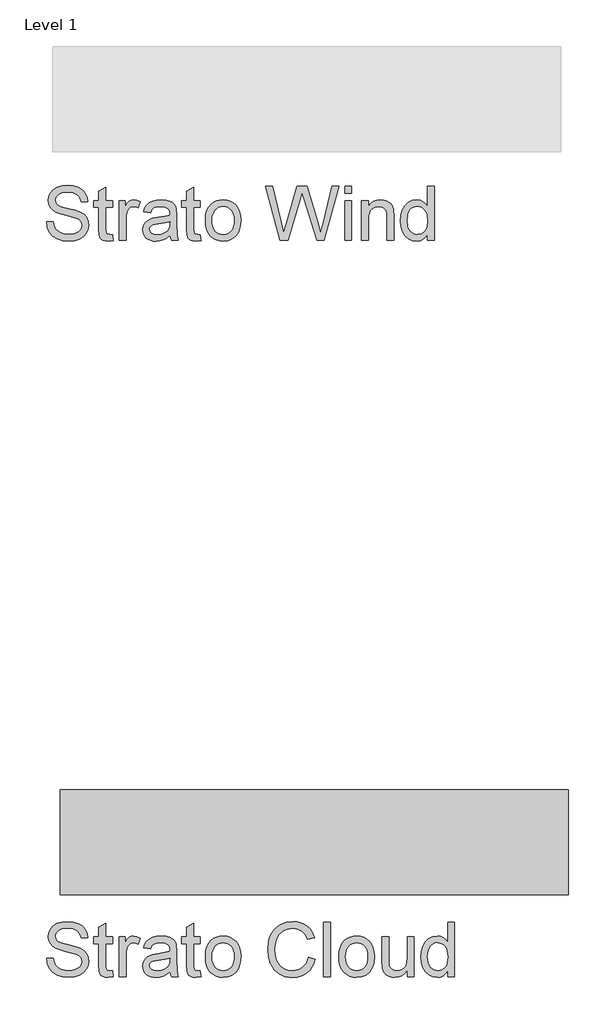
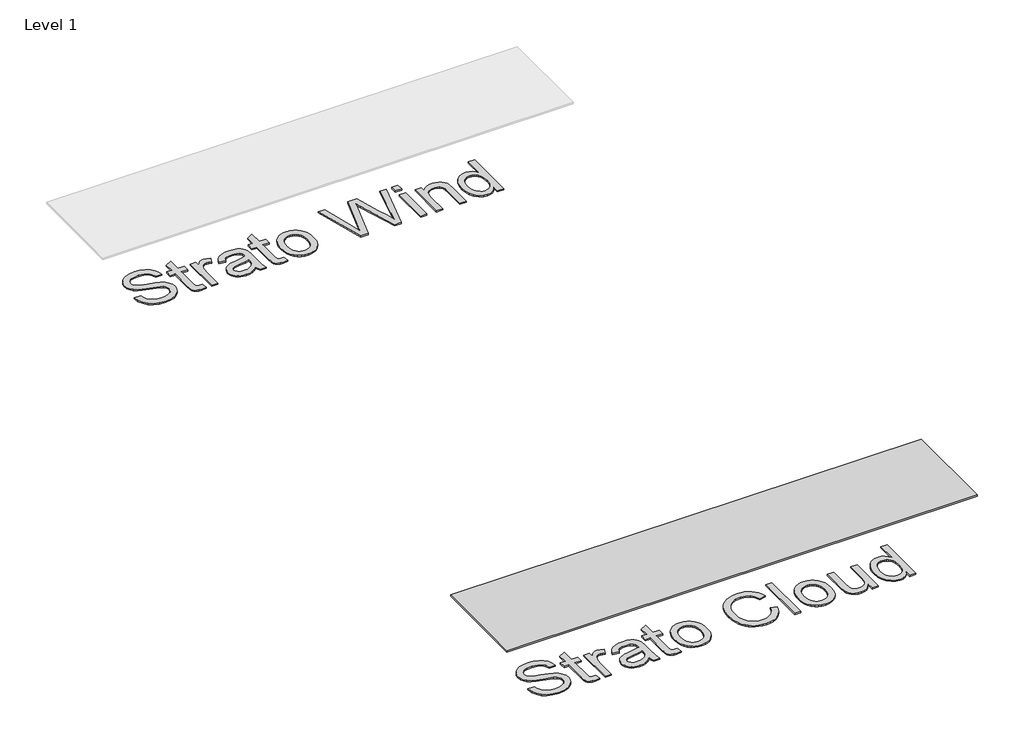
# One storey, part 1 of 2: 3 proxies.
"""IFC4 building model written with IfcOpenShell, lengths in millimetres."""

from ifc_helpers import new_model, si_unit, origin, origin_with_axes, place, context, project, spatial, polyline, outline, extrude, transform, mapped, element, save
from components import generic_models_7f56e2ab

model = new_model("IFC4")

# Units and contexts
model_context = context("Model", 3, world=origin())
ifc_project = project(units=[si_unit("LENGTHUNIT", "METRE", prefix="MILLI")], contexts=[model_context])

# Site, building, storey
site = spatial("IfcSite", under=ifc_project)
building = spatial("IfcBuilding", under=site)
storey = spatial("IfcBuildingStorey", under=building, Name="Level 1", Elevation=0.0)

# Proxies
placement = place(None, origin())
generic_models_shape = generic_models_7f56e2ab(model_context)
element("IfcBuildingElementProxy", 1, Name="Indoor-Material_HI-MACS_Strato : Natural Acrylic Stone - HI-MACS -  Strato - Cloud", ObjectType="Indoor-Material_HI-MACS_Strato : Natural Acrylic Stone - HI-MACS -  Strato - Cloud", at=placement, inside=storey, context=model_context, shape_type="MappedRepresentation", body=[
    mapped(generic_models_shape, transform((-39135.0030901, 16973.1452732, 0.0), x_axis=(1.0000000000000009, 0.0, 0.0), y_axis=(0.0, 1.0000000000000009, 0.0), z_axis=(0.0, 0.0, 1.0))),
])
element("IfcBuildingElementProxy", 2, Name="600mm Arial", ObjectType="600mm Arial", at=placement, inside=storey, context=model_context, shape_type="SweptSolid", body=[
    extrude(outline(polyline([(-41073.5025973, 21466.0222044), (-41024.5329003, 21466.0222044), (-41018.9138189, 21438.8473701), (-41008.7516503, 21417.0046855), (-40992.8986674, 21399.6692214), (-40970.2071427, 21386.0160491), (-40942.4704003, 21377.1570292), (-40911.481764, 21374.2040226), (-40884.1993302, 21376.4396997), (-40860.3122564, 21383.1467309), (-40840.9563141, 21393.7632082), (-40827.2672753, 21407.7272233), (-40819.125585, 21423.7595387), (-40816.4116882, 21440.5809165), (-40818.4441219, 21456.9718966), (-40824.5414231, 21471.1391552), (-40836.9273132, 21483.226158), (-40857.825514, 21493.3763711), (-40929.1280708, 21512.0747612), (-40975.9338236, 21524.4486959), (-41005.8823321, 21536.2248559), (-41030.2595812, 21552.6995245), (-41047.5352677, 21572.6651968), (-41057.8289467, 21595.6914752), (-41061.2601731, 21621.347962), (-41057.0159732, 21650.0291883), (-41044.2833738, 21676.7736249), (-41023.3971285, 21699.4412385), (-40994.6919912, 21715.8919961), (-40960.2362621, 21725.8987432), (-40922.0982412, 21729.2343256), (-40880.7800594, 21725.7433218), (-40844.6266503, 21715.2703105), (-40814.9292071, 21698.0304904), (-40792.9789231, 21674.2390605), (-40779.0866409, 21645.3785017), (-40773.5632034, 21612.9312953), (-40822.5329003, 21612.9312953), (-40831.5234306, 21642.1505188), (-40850.2696427, 21663.2400074), (-40879.5605992, 21676.0084733), (-40920.1853624, 21680.2646286), (-40961.7665651, 21676.0562953), (-40977.6613923, 21670.7958786), (-40990.29237, 21663.4312953), (-41006.7909496, 21644.8524601), (-41012.2904761, 21622.7826211), (-41008.3929856, 21603.964676), (-40996.700514, 21588.8290226), (-40969.0594155, 21575.2954052), (-40916.7421806, 21561.4748559), (-40862.7511768, 21548.3477252), (-40830.0887715, 21536.8943635), (-40802.1726967, 21519.1285017), (-40782.6971996, 21497.2021286), (-40771.2557933, 21471.354354), (-40767.4419912, 21441.8242877), (-40771.829657, 21411.6366694), (-40784.9926541, 21383.2423749), (-40806.3929856, 21358.8053483), (-40835.4926541, 21340.4895339), (-40870.4863804, 21329.0481277), (-40909.5688852, 21325.2343256), (-40957.5462763, 21329.347015), (-40997.0352677, 21341.6850832), (-41028.4901683, 21362.2963521), (-41052.3652867, 21391.2286438), (-41067.692228, 21426.4734355), (-41073.5025973, 21466.0222044)])), origin_with_axes(), (0.0, 0.0, 1.0), 10.0),
    extrude(outline(polyline([(-40596.0480518, 21372.1954999), (-40589.9268397, 21329.9208786), (-40626.5584685, 21325.2343256), (-40650.0629666, 21327.2667593), (-40667.5897185, 21333.3640605), (-40679.9756087, 21342.7610775), (-40688.0575215, 21354.6926589), (-40692.5049647, 21375.184373), (-40693.9874458, 21410.2617877), (-40693.9874458, 21570.0828105), (-40730.7147185, 21570.0828105), (-40730.7147185, 21619.0525074), (-40693.9874458, 21619.0525074), (-40693.9874458, 21688.9682271), (-40645.0177488, 21717.7570529), (-40645.0177488, 21619.0525074), (-40596.0480518, 21619.0525074), (-40596.0480518, 21570.0828105), (-40645.0177488, 21570.0828105), (-40645.0177488, 21411.6964468), (-40642.4353624, 21386.4464468), (-40634.0665177, 21377.5037385), (-40617.3766503, 21374.2040226), (-40596.0480518, 21372.1954999)])), origin_with_axes(), (0.0, 0.0, 1.0), 10.0),
    extrude(outline(polyline([(-40547.0783549, 21331.3555377), (-40547.0783549, 21619.0525074), (-40504.22987, 21619.0525074), (-40504.22987, 21576.4909544), (-40488.4007981, 21601.1670908), (-40473.8150973, 21615.7049695), (-40459.1815746, 21622.806532), (-40443.2090367, 21625.1737195), (-40418.8198321, 21621.3957839), (-40394.0480518, 21610.0619771), (-40410.4031655, 21566.1614089), (-40427.6190746, 21573.6933692), (-40444.8349837, 21576.2040226), (-40459.4565509, 21573.7890131), (-40472.5239041, 21566.5439847), (-40483.0806039, 21555.01889), (-40490.1702109, 21539.7636817), (-40496.1240462, 21512.409515), (-40498.1086579, 21482.5686059), (-40498.1086579, 21331.3555377), (-40547.0783549, 21331.3555377)])), origin_with_axes(), (0.0, 0.0, 1.0), 10.0),
    extrude(outline(polyline([(-40179.8056276, 21368.0828105), (-40203.2025263, 21348.0214942), (-40227.2928435, 21334.8943635), (-40252.626532, 21327.6493351), (-40279.7535443, 21325.2343256), (-40301.5573736, 21326.6869179), (-40320.6771948, 21331.0446949), (-40337.113008, 21338.3076566), (-40350.8648132, 21348.4758029), (-40361.7233892, 21360.9035373), (-40369.4795149, 21374.9452631), (-40374.1331903, 21390.6009804), (-40375.6844155, 21407.8706892), (-40373.341139, 21428.1711154), (-40366.3113094, 21446.6064847), (-40355.4676778, 21462.3877347), (-40341.682995, 21474.7258029), (-40307.3946427, 21490.7939847), (-40265.0243776, 21498.158568), (-40214.9547753, 21505.9057271), (-40180.0925594, 21514.9919014), (-40179.8056276, 21525.8953105), (-40183.1770765, 21547.7499506), (-40193.2914231, 21562.0487195), (-40215.9112147, 21572.6651968), (-40247.4258927, 21576.2040226), (-40276.5972943, 21573.8487906), (-40296.9694534, 21566.7830945), (-40310.8617356, 21553.7157413), (-40320.5935064, 21533.3555377), (-40369.5632034, 21539.4767499), (-40361.0628482, 21566.2570529), (-40348.3780708, 21587.2987195), (-40330.3252772, 21603.3908124), (-40305.7208738, 21615.3223938), (-40275.6288994, 21622.7108881), (-40241.1133927, 21625.1737195), (-40208.0086342, 21622.9978199), (-40181.7663284, 21616.4701211), (-40161.9799884, 21606.6546618), (-40148.2431276, 21594.6154809), (-40139.1330424, 21579.7308928), (-40133.2270291, 21561.379212), (-40130.8359306, 21518.5307271), (-40130.8359306, 21457.6055377), (-40128.3491882, 21372.5302536), (-40118.5935064, 21331.3555377), (-40167.5632034, 21331.3555377), (-40175.4060064, 21348.3801589), (-40179.8056276, 21368.0828105)]), holes=[polyline([(-40179.8056276, 21466.0222044), (-40212.7071427, 21457.8685586), (-40258.8075215, 21451.0061059), (-40300.9386768, 21443.0676589), (-40311.9018634, 21437.6398654), (-40320.0196427, 21430.1557271), (-40325.0409496, 21421.1891078), (-40326.7147185, 21411.3138711), (-40323.0682933, 21396.7520813), (-40312.1290177, 21384.8204999), (-40294.1360016, 21376.8581419), (-40269.3283549, 21374.2040226), (-40243.0262715, 21377.1331182), (-40219.7847943, 21385.9204052), (-40200.9429382, 21398.8682035), (-40187.8397185, 21414.2788332), (-40182.0293492, 21430.1557271), (-40180.0925594, 21452.1538332), (-40179.8056276, 21466.0222044)])]), origin_with_axes(), (0.0, 0.0, 1.0), 10.0),
    extrude(outline(polyline([(-39959.4419912, 21372.1954999), (-39953.3207791, 21329.9208786), (-39989.9524079, 21325.2343256), (-40013.456906, 21327.2667593), (-40030.9836579, 21333.3640605), (-40043.3695481, 21342.7610775), (-40051.4514609, 21354.6926589), (-40055.8989041, 21375.184373), (-40057.3813852, 21410.2617877), (-40057.3813852, 21570.0828105), (-40094.1086579, 21570.0828105), (-40094.1086579, 21619.0525074), (-40057.3813852, 21619.0525074), (-40057.3813852, 21688.9682271), (-40008.4116882, 21717.7570529), (-40008.4116882, 21619.0525074), (-39959.4419912, 21619.0525074), (-39959.4419912, 21570.0828105), (-40008.4116882, 21570.0828105), (-40008.4116882, 21411.6964468), (-40005.8293018, 21386.4464468), (-39997.4604571, 21377.5037385), (-39980.7705897, 21374.2040226), (-39959.4419912, 21372.1954999)])), origin_with_axes(), (0.0, 0.0, 1.0), 10.0),
    extrude(outline(polyline([(-39922.7147185, 21475.2040226), (-39920.0665769, 21512.4633147), (-39912.1221522, 21544.5697896), (-39898.8814444, 21571.5234473), (-39880.3444534, 21593.3242877), (-39861.6819297, 21607.2584142), (-39841.0826162, 21617.2113616), (-39818.546513, 21623.1831301), (-39794.07362, 21625.1737195), (-39767.057196, 21622.7497435), (-39742.6291361, 21615.4778152), (-39720.7894403, 21603.3579347), (-39701.5381087, 21586.3901021), (-39685.8256027, 21565.148181), (-39674.6023842, 21540.2060349), (-39667.8684531, 21511.5636639), (-39665.6238094, 21479.221068), (-39669.5930329, 21429.7492404), (-39681.5007034, 21392.0894392), (-39701.0001115, 21363.8864326), (-39727.7445481, 21342.7849885), (-39759.5102914, 21329.6219913), (-39794.07362, 21325.2343256), (-39821.4845753, 21327.6493351), (-39846.1397895, 21334.8943635), (-39868.0392628, 21346.9694108), (-39887.182995, 21363.8744771), (-39902.728124, 21385.3226305), (-39913.8317876, 21411.0269392), (-39920.4939858, 21440.9874033), (-39922.7147185, 21475.2040226)]), holes=[polyline([(-39873.7450215, 21475.2996665), (-39872.3282957, 21451.5470919), (-39868.0781181, 21430.9806561), (-39860.9944889, 21413.600359), (-39851.0774079, 21399.4062006), (-39839.014316, 21388.3802477), (-39825.4926541, 21380.5045671), (-39810.5124221, 21375.7791587), (-39794.07362, 21374.2040226), (-39777.7185064, 21375.7881253), (-39762.7980518, 21380.5404336), (-39749.3122564, 21388.4609473), (-39737.26112, 21399.5496665), (-39727.3440391, 21413.8843019), (-39720.2604098, 21431.5425642), (-39716.0102322, 21452.5244535), (-39714.5935064, 21476.8299695), (-39716.0191989, 21499.8293481), (-39720.2962763, 21519.8577868), (-39727.4247386, 21536.9152856), (-39737.4045859, 21551.0018445), (-39749.5005554, 21562.0277974), (-39762.9773842, 21569.9034781), (-39777.8350724, 21574.6288865), (-39794.07362, 21576.2040226), (-39810.5124221, 21574.6348642), (-39825.4926541, 21569.9273891), (-39839.014316, 21562.0815972), (-39851.0774079, 21551.0974885), (-39860.9944889, 21536.9451743), (-39868.0781181, 21519.594766), (-39872.3282957, 21499.0462633), (-39873.7450215, 21475.2996665)])]), origin_with_axes(), (0.0, 0.0, 1.0), 10.0),
    extrude(outline(polyline([(-39381.2743776, 21331.3555377), (-39488.1086579, 21723.1131135), (-39437.6086579, 21723.1131135), (-39375.6313852, 21465.6396286), (-39356.5025973, 21386.159515), (-39336.0347943, 21456.4578105), (-39258.3719155, 21723.1131135), (-39185.5868776, 21723.1131135), (-39129.1569534, 21529.816712), (-39104.9829477, 21458.0837574), (-39087.169264, 21386.159515), (-39068.6143397, 21463.3441741), (-39006.0632034, 21723.1131135), (-38955.5632034, 21723.1131135), (-39062.4931276, 21331.3555377), (-39114.8103624, 21331.3555377), (-39208.7327109, 21633.5903862), (-39221.8359306, 21675.7693635), (-39236.5650973, 21624.9824317), (-39322.1664231, 21331.3555377), (-39381.2743776, 21331.3555377)])), origin_with_axes(), (0.0, 0.0, 1.0), 10.0),
    extrude(outline(polyline([(-38912.7147185, 21331.3555377), (-38912.7147185, 21619.0525074), (-38863.7450215, 21619.0525074), (-38863.7450215, 21331.3555377), (-38912.7147185, 21331.3555377)])), origin_with_axes(), (0.0, 0.0, 1.0), 10.0),
    extrude(outline(polyline([(-38912.7147185, 21674.1434165), (-38912.7147185, 21723.1131135), (-38863.7450215, 21723.1131135), (-38863.7450215, 21674.1434165), (-38912.7147185, 21674.1434165)])), origin_with_axes(), (0.0, 0.0, 1.0), 10.0),
    extrude(outline(polyline([(-38790.2904761, 21331.3555377), (-38790.2904761, 21619.0525074), (-38741.3207791, 21619.0525074), (-38741.3207791, 21578.8820529), (-38724.3081134, 21599.134657), (-38703.8761768, 21613.6008029), (-38680.0249695, 21622.2804904), (-38652.7544912, 21625.1737195), (-38628.616352, 21622.8423985), (-38606.5106465, 21615.8484355), (-38588.0752772, 21605.0645813), (-38574.9481465, 21591.363587), (-38566.0413047, 21574.781319), (-38560.2668018, 21555.3536438), (-38557.6844155, 21508.0098938), (-38557.6844155, 21331.3555377), (-38606.6541124, 21331.3555377), (-38606.6541124, 21501.410462), (-38608.0648606, 21526.7321949), (-38612.2971049, 21544.7371665), (-38620.1040414, 21557.6371428), (-38632.2388662, 21567.64389), (-38647.7929619, 21574.0639894), (-38665.8577109, 21576.2040226), (-38694.5389373, 21571.3979146), (-38718.9879193, 21556.9795908), (-38728.7585454, 21545.2094085), (-38735.7375641, 21529.1232934), (-38739.9249754, 21508.7212456), (-38741.3207791, 21484.003265), (-38741.3207791, 21331.3555377), (-38790.2904761, 21331.3555377)])), origin_with_axes(), (0.0, 0.0, 1.0), 10.0),
    extrude(outline(polyline([(-38312.8359306, 21331.3555377), (-38312.8359306, 21377.5515605), (-38327.4873866, 21354.6627702), (-38345.2353151, 21338.3136343), (-38366.0797161, 21328.5041528), (-38390.0205897, 21325.2343256), (-38421.6787337, 21329.9687006), (-38450.6588473, 21344.1718256), (-38475.1915177, 21366.8513947), (-38493.5073321, 21397.0151021), (-38504.9128719, 21433.4434875), (-38508.7147185, 21474.9170908), (-38505.2117592, 21515.8766078), (-38494.7028814, 21552.8669014), (-38477.2000405, 21583.7838048), (-38452.715192, 21606.5231514), (-38423.1014373, 21620.5110775), (-38390.2118776, 21625.1737195), (-38366.2530708, 21621.8381372), (-38345.0679382, 21611.83139), (-38327.1107886, 21596.4924932), (-38312.8359306, 21577.160462), (-38312.8359306, 21723.1131135), (-38263.8662337, 21723.1131135), (-38263.8662337, 21331.3555377), (-38312.8359306, 21331.3555377)]), holes=[polyline([(-38459.7450215, 21475.1083786), (-38454.221584, 21430.8132792), (-38447.3172872, 21413.4628708), (-38437.6512715, 21399.3105567), (-38413.5729098, 21380.4806561), (-38400.0452701, 21375.773181), (-38385.5253246, 21374.2040226), (-38357.4896948, 21380.1937243), (-38334.0210632, 21398.1628294), (-38324.7525677, 21411.7233467), (-38318.1322138, 21428.4460917), (-38312.8359306, 21471.378265), (-38318.2278577, 21518.3155283), (-38324.9677666, 21536.3862551), (-38334.403639, 21550.8583786), (-38345.8121676, 21561.9470979), (-38358.4700452, 21569.8676116), (-38372.3772718, 21574.6199198), (-38387.5338473, 21576.2040226), (-38402.3407247, 21574.6826862), (-38415.8683643, 21570.1186769), (-38428.1167663, 21562.5119949), (-38439.0859306, 21551.86264), (-38448.1242829, 21537.9374802), (-38454.5802488, 21520.5033834), (-38459.7450215, 21475.1083786)])]), origin_with_axes(), (0.0, 0.0, 1.0), 10.0),
])
element("IfcBuildingElementProxy", 3, Name="600mm Arial", ObjectType="600mm Arial", at=placement, inside=storey, context=model_context, shape_type="SweptSolid", body=[
    extrude(outline(polyline([(-41073.5025973, 16136.9170721), (-41024.5329003, 16136.9170721), (-41018.9138189, 16109.7422378), (-41008.7516503, 16087.8995532), (-40992.8986674, 16070.5640892), (-40970.2071427, 16056.9109168), (-40942.4704003, 16048.0518969), (-40911.481764, 16045.0988903), (-40884.1993302, 16047.3345674), (-40860.3122564, 16054.0415986), (-40840.9563141, 16064.6580759), (-40827.2672753, 16078.6220911), (-40819.125585, 16094.6544064), (-40816.4116882, 16111.4757842), (-40818.4441219, 16127.8667644), (-40824.5414231, 16142.0340229), (-40836.9273132, 16154.1210257), (-40857.825514, 16164.2712388), (-40929.1280708, 16182.9696289), (-40975.9338236, 16195.3435636), (-41005.8823321, 16207.1197236), (-41030.2595812, 16223.5943922), (-41047.5352677, 16243.5600645), (-41057.8289467, 16266.586343), (-41061.2601731, 16292.2428297), (-41057.0159732, 16320.924056), (-41044.2833738, 16347.6684926), (-41023.3971285, 16370.3361062), (-40994.6919912, 16386.7868638), (-40960.2362621, 16396.7936109), (-40922.0982412, 16400.1291933), (-40880.7800594, 16396.6381895), (-40844.6266503, 16386.1651782), (-40814.9292071, 16368.9253581), (-40792.9789231, 16345.1339282), (-40779.0866409, 16316.2733695), (-40773.5632034, 16283.826163), (-40822.5329003, 16283.826163), (-40831.5234306, 16313.0453865), (-40850.2696427, 16334.1348751), (-40879.5605992, 16346.9033411), (-40920.1853624, 16351.1594964), (-40961.7665651, 16346.951163), (-40977.6613923, 16341.6907464), (-40990.29237, 16334.326163), (-41006.7909496, 16315.7473278), (-41012.2904761, 16293.6774888), (-41008.3929856, 16274.8595437), (-40996.700514, 16259.7238903), (-40969.0594155, 16246.1902729), (-40916.7421806, 16232.3697236), (-40862.7511768, 16219.242593), (-40830.0887715, 16207.7892312), (-40802.1726967, 16190.0233695), (-40782.6971996, 16168.0969964), (-40771.2557933, 16142.2492217), (-40767.4419912, 16112.7191555), (-40771.829657, 16082.5315371), (-40784.9926541, 16054.1372426), (-40806.3929856, 16029.7002161), (-40835.4926541, 16011.3844017), (-40870.4863804, 15999.9429954), (-40909.5688852, 15996.1291933), (-40957.5462763, 16000.2418827), (-40997.0352677, 16012.5799509), (-41028.4901683, 16033.1912198), (-41052.3652867, 16062.1235115), (-41067.692228, 16097.3683032), (-41073.5025973, 16136.9170721)])), origin_with_axes(), (0.0, 0.0, 1.0), 10.0),
    extrude(outline(polyline([(-40596.0480518, 16043.0903676), (-40589.9268397, 16000.8157464), (-40626.5584685, 15996.1291933), (-40650.0629666, 15998.161627), (-40667.5897185, 16004.2589282), (-40679.9756087, 16013.6559452), (-40688.0575215, 16025.5875267), (-40692.5049647, 16046.0792407), (-40693.9874458, 16081.1566555), (-40693.9874458, 16240.9776782), (-40730.7147185, 16240.9776782), (-40730.7147185, 16289.9473751), (-40693.9874458, 16289.9473751), (-40693.9874458, 16359.8630948), (-40645.0177488, 16388.6519206), (-40645.0177488, 16289.9473751), (-40596.0480518, 16289.9473751), (-40596.0480518, 16240.9776782), (-40645.0177488, 16240.9776782), (-40645.0177488, 16082.5913145), (-40642.4353624, 16057.3413145), (-40634.0665177, 16048.3986062), (-40617.3766503, 16045.0988903), (-40596.0480518, 16043.0903676)])), origin_with_axes(), (0.0, 0.0, 1.0), 10.0),
    extrude(outline(polyline([(-40547.0783549, 16002.2504055), (-40547.0783549, 16289.9473751), (-40504.22987, 16289.9473751), (-40504.22987, 16247.3858221), (-40488.4007981, 16272.0619585), (-40473.8150973, 16286.5998373), (-40459.1815746, 16293.7013998), (-40443.2090367, 16296.0685873), (-40418.8198321, 16292.2906517), (-40394.0480518, 16280.9568448), (-40410.4031655, 16237.0562767), (-40427.6190746, 16244.5882369), (-40444.8349837, 16247.0988903), (-40459.4565509, 16244.6838808), (-40472.5239041, 16237.4388524), (-40483.0806039, 16225.9137577), (-40490.1702109, 16210.6585494), (-40496.1240462, 16183.3043827), (-40498.1086579, 16153.4634736), (-40498.1086579, 16002.2504055), (-40547.0783549, 16002.2504055)])), origin_with_axes(), (0.0, 0.0, 1.0), 10.0),
    extrude(outline(polyline([(-40179.8056276, 16038.9776782), (-40203.2025263, 16018.9163619), (-40227.2928435, 16005.7892312), (-40252.626532, 15998.5442028), (-40279.7535443, 15996.1291933), (-40301.5573736, 15997.5817857), (-40320.6771948, 16001.9395626), (-40337.113008, 16009.2025243), (-40350.8648132, 16019.3706706), (-40361.7233892, 16031.798405), (-40369.4795149, 16045.8401308), (-40374.1331903, 16061.4958482), (-40375.6844155, 16078.765557), (-40373.341139, 16099.0659831), (-40366.3113094, 16117.5013524), (-40355.4676778, 16133.2826024), (-40341.682995, 16145.6206706), (-40307.3946427, 16161.6888524), (-40265.0243776, 16169.0534358), (-40214.9547753, 16176.8005948), (-40180.0925594, 16185.8867691), (-40179.8056276, 16196.7901782), (-40183.1770765, 16218.6448183), (-40193.2914231, 16232.9435873), (-40215.9112147, 16243.5600645), (-40247.4258927, 16247.0988903), (-40276.5972943, 16244.7436583), (-40296.9694534, 16237.6779623), (-40310.8617356, 16224.6106091), (-40320.5935064, 16204.2504055), (-40369.5632034, 16210.3716176), (-40361.0628482, 16237.1519206), (-40348.3780708, 16258.1935873), (-40330.3252772, 16274.2856801), (-40305.7208738, 16286.2172615), (-40275.6288994, 16293.6057558), (-40241.1133927, 16296.0685873), (-40208.0086342, 16293.8926876), (-40181.7663284, 16287.3649888), (-40161.9799884, 16277.5495295), (-40148.2431276, 16265.5103486), (-40139.1330424, 16250.6257606), (-40133.2270291, 16232.2740797), (-40130.8359306, 16189.4255948), (-40130.8359306, 16128.5004055), (-40128.3491882, 16043.4251214), (-40118.5935064, 16002.2504055), (-40167.5632034, 16002.2504055), (-40175.4060064, 16019.2750267), (-40179.8056276, 16038.9776782)]), holes=[polyline([(-40179.8056276, 16136.9170721), (-40212.7071427, 16128.7634263), (-40258.8075215, 16121.9009736), (-40300.9386768, 16113.9625267), (-40311.9018634, 16108.5347331), (-40320.0196427, 16101.0505948), (-40325.0409496, 16092.0839755), (-40326.7147185, 16082.2087388), (-40323.0682933, 16067.646949), (-40312.1290177, 16055.7153676), (-40294.1360016, 16047.7530096), (-40269.3283549, 16045.0988903), (-40243.0262715, 16048.0279859), (-40219.7847943, 16056.8152729), (-40200.9429382, 16069.7630712), (-40187.8397185, 16085.1737009), (-40182.0293492, 16101.0505948), (-40180.0925594, 16123.0487009), (-40179.8056276, 16136.9170721)])]), origin_with_axes(), (0.0, 0.0, 1.0), 10.0),
    extrude(outline(polyline([(-39959.4419912, 16043.0903676), (-39953.3207791, 16000.8157464), (-39989.9524079, 15996.1291933), (-40013.456906, 15998.161627), (-40030.9836579, 16004.2589282), (-40043.3695481, 16013.6559452), (-40051.4514609, 16025.5875267), (-40055.8989041, 16046.0792407), (-40057.3813852, 16081.1566555), (-40057.3813852, 16240.9776782), (-40094.1086579, 16240.9776782), (-40094.1086579, 16289.9473751), (-40057.3813852, 16289.9473751), (-40057.3813852, 16359.8630948), (-40008.4116882, 16388.6519206), (-40008.4116882, 16289.9473751), (-39959.4419912, 16289.9473751), (-39959.4419912, 16240.9776782), (-40008.4116882, 16240.9776782), (-40008.4116882, 16082.5913145), (-40005.8293018, 16057.3413145), (-39997.4604571, 16048.3986062), (-39980.7705897, 16045.0988903), (-39959.4419912, 16043.0903676)])), origin_with_axes(), (0.0, 0.0, 1.0), 10.0),
    extrude(outline(polyline([(-39922.7147185, 16146.0988903), (-39920.0665769, 16183.3581824), (-39912.1221522, 16215.4646573), (-39898.8814444, 16242.418315), (-39880.3444534, 16264.2191555), (-39861.6819297, 16278.1532819), (-39841.0826162, 16288.1062293), (-39818.546513, 16294.0779978), (-39794.07362, 16296.0685873), (-39767.057196, 16293.6446112), (-39742.6291361, 16286.3726829), (-39720.7894403, 16274.2528025), (-39701.5381087, 16257.2849698), (-39685.8256027, 16236.0430487), (-39674.6023842, 16211.1009026), (-39667.8684531, 16182.4585316), (-39665.6238094, 16150.1159358), (-39669.5930329, 16100.6441081), (-39681.5007034, 16062.984307), (-39701.0001115, 16034.7813003), (-39727.7445481, 16013.6798562), (-39759.5102914, 16000.5168591), (-39794.07362, 15996.1291933), (-39821.4845753, 15998.5442028), (-39846.1397895, 16005.7892312), (-39868.0392628, 16017.8642786), (-39887.182995, 16034.7693448), (-39902.728124, 16056.2174983), (-39913.8317876, 16081.921807), (-39920.4939858, 16111.882271), (-39922.7147185, 16146.0988903)]), holes=[polyline([(-39873.7450215, 16146.1945342), (-39872.3282957, 16122.4419597), (-39868.0781181, 16101.8755238), (-39860.9944889, 16084.4952267), (-39851.0774079, 16070.3010683), (-39839.014316, 16059.2751154), (-39825.4926541, 16051.3994348), (-39810.5124221, 16046.6740264), (-39794.07362, 16045.0988903), (-39777.7185064, 16046.682993), (-39762.7980518, 16051.4353013), (-39749.3122564, 16059.355815), (-39737.26112, 16070.4445342), (-39727.3440391, 16084.7791697), (-39720.2604098, 16102.437432), (-39716.0102322, 16123.4193212), (-39714.5935064, 16147.7248373), (-39716.0191989, 16170.7242158), (-39720.2962763, 16190.7526545), (-39727.4247386, 16207.8101533), (-39737.4045859, 16221.8967123), (-39749.5005554, 16232.9226652), (-39762.9773842, 16240.7983458), (-39777.8350724, 16245.5237542), (-39794.07362, 16247.0988903), (-39810.5124221, 16245.5297319), (-39825.4926541, 16240.8222568), (-39839.014316, 16232.9764649), (-39851.0774079, 16221.9923562), (-39860.9944889, 16207.8400421), (-39868.0781181, 16190.4896337), (-39872.3282957, 16169.9411311), (-39873.7450215, 16146.1945342)])]), origin_with_axes(), (0.0, 0.0, 1.0), 10.0),
    extrude(outline(polyline([(-39175.9268397, 16141.5079812), (-39126.9571427, 16128.8829812), (-39136.6470694, 16098.4293531), (-39149.5530234, 16071.8194159), (-39165.675005, 16049.0531694), (-39185.013014, 16030.1306138), (-39207.1306749, 16015.2549923), (-39231.5916124, 16004.6295484), (-39258.3958265, 15998.2542821), (-39287.543317, 15996.1291933), (-39317.4051482, 15997.7372071), (-39344.3438615, 16002.5612483), (-39368.3594569, 16010.6013169), (-39389.4519344, 16021.857413), (-39407.9112147, 16036.1621597), (-39424.0272185, 16053.3481801), (-39437.7999458, 16073.4154741), (-39449.2293965, 16096.3640418), (-39464.6161153, 16146.9357748), (-39469.7450215, 16201.0941555), (-39463.9466077, 16258.2174983), (-39456.6985904, 16283.8560518), (-39446.5513662, 16307.54586), (-39433.7320895, 16328.8953806), (-39418.4679145, 16347.5130712), (-39400.7588414, 16363.3989317), (-39380.60487, 16376.5529623), (-39335.7000405, 16394.2351356), (-39286.4912337, 16400.1291933), (-39258.4825038, 16398.2222923), (-39232.7991172, 16392.5015892), (-39209.4410739, 16382.967084), (-39188.4083738, 16369.6187767), (-39170.0477263, 16352.8093543), (-39154.7058407, 16332.8915039), (-39142.3827168, 16309.8652255), (-39133.0783549, 16283.7305191), (-39182.0480518, 16272.0619585), (-39199.0248511, 16307.7730144), (-39222.2185064, 16332.2698183), (-39251.9159496, 16346.4370769), (-39288.4041124, 16351.1594964), (-39330.4635348, 16345.9229907), (-39365.0149079, 16330.2134736), (-39391.2333028, 16305.6808032), (-39408.2937905, 16273.9748373), (-39417.654941, 16238.132271), (-39420.7753246, 16201.1897994), (-39417.0810774, 16155.9502161), (-39405.9983359, 16116.8318448), (-39387.1086579, 16085.3291223), (-39359.9936011, 16062.936485), (-39327.4866172, 16049.558289), (-39292.4211579, 16045.0988903), (-39271.1314148, 16046.6172378), (-39251.5453293, 16051.1722805), (-39233.6629015, 16058.7640181), (-39217.4841314, 16069.3924509), (-39203.3915947, 16083.0097568), (-39191.7678672, 16099.5681138), (-39182.6129489, 16119.0675219), (-39175.9268397, 16141.5079812)])), origin_with_axes(), (0.0, 0.0, 1.0), 10.0),
    extrude(outline(polyline([(-39065.7450215, 16002.2504055), (-39065.7450215, 16394.0079812), (-39016.7753246, 16394.0079812), (-39016.7753246, 16002.2504055), (-39065.7450215, 16002.2504055)])), origin_with_axes(), (0.0, 0.0, 1.0), 10.0),
    extrude(outline(polyline([(-38955.5632034, 16146.0988903), (-38952.9150618, 16183.3581824), (-38944.9706371, 16215.4646573), (-38931.7299292, 16242.418315), (-38913.1929382, 16264.2191555), (-38894.5304145, 16278.1532819), (-38873.9311011, 16288.1062293), (-38851.3949979, 16294.0779978), (-38826.9221049, 16296.0685873), (-38799.9056809, 16293.6446112), (-38775.477621, 16286.3726829), (-38753.6379252, 16274.2528025), (-38734.3865935, 16257.2849698), (-38718.6740876, 16236.0430487), (-38707.4508691, 16211.1009026), (-38700.716938, 16182.4585316), (-38698.4722943, 16150.1159358), (-38702.4415177, 16100.6441081), (-38714.3491882, 16062.984307), (-38733.8485963, 16034.7813003), (-38760.5930329, 16013.6798562), (-38792.3587763, 16000.5168591), (-38826.9221049, 15996.1291933), (-38854.3330601, 15998.5442028), (-38878.9882744, 16005.7892312), (-38900.8877476, 16017.8642786), (-38920.0314799, 16034.7693448), (-38935.5766089, 16056.2174983), (-38946.6802725, 16081.921807), (-38953.3424706, 16111.882271), (-38955.5632034, 16146.0988903)]), holes=[polyline([(-38906.5935064, 16146.1945342), (-38905.1767805, 16122.4419597), (-38900.926603, 16101.8755238), (-38893.8429737, 16084.4952267), (-38883.9258927, 16070.3010683), (-38871.8628009, 16059.2751154), (-38858.341139, 16051.3994348), (-38843.360907, 16046.6740264), (-38826.9221049, 16045.0988903), (-38810.5669912, 16046.682993), (-38795.6465367, 16051.4353013), (-38782.1607412, 16059.355815), (-38770.1096049, 16070.4445342), (-38760.1925239, 16084.7791697), (-38753.1088946, 16102.437432), (-38748.8587171, 16123.4193212), (-38747.4419912, 16147.7248373), (-38748.8676837, 16170.7242158), (-38753.1447611, 16190.7526545), (-38760.2732235, 16207.8101533), (-38770.2530708, 16221.8967123), (-38782.3490402, 16232.9226652), (-38795.8258691, 16240.7983458), (-38810.6835573, 16245.5237542), (-38826.9221049, 16247.0988903), (-38843.360907, 16245.5297319), (-38858.341139, 16240.8222568), (-38871.8628009, 16232.9764649), (-38883.9258927, 16221.9923562), (-38893.8429737, 16207.8400421), (-38900.926603, 16190.4896337), (-38905.1767805, 16169.9411311), (-38906.5935064, 16146.1945342)])]), origin_with_axes(), (0.0, 0.0, 1.0), 10.0),
    extrude(outline(polyline([(-38459.7450215, 16002.2504055), (-38459.7450215, 16051.6983221), (-38477.4630613, 16027.3868283), (-38498.0982412, 16010.0214755), (-38521.6505613, 15999.6022639), (-38548.1200215, 15996.1291933), (-38571.9712289, 15998.5681138), (-38594.1725784, 16005.8848751), (-38612.7992356, 16016.8839282), (-38625.9263662, 16030.3697236), (-38634.7614751, 16046.7487483), (-38640.512067, 16066.4274888), (-38643.3813852, 16111.9540039), (-38643.3813852, 16289.9473751), (-38594.4116882, 16289.9473751), (-38594.4116882, 16135.0041933), (-38591.4467261, 16085.078057), (-38584.3092971, 16068.424056), (-38572.0788284, 16055.7631895), (-38555.5682933, 16047.7649651), (-38535.5906655, 16045.0988903), (-38514.4653104, 16047.8247426), (-38494.7028814, 16056.0022994), (-38478.4075452, 16068.8783647), (-38467.6834685, 16085.6997426), (-38461.7296333, 16108.7379765), (-38459.7450215, 16140.26461), (-38459.7450215, 16289.9473751), (-38410.7753246, 16289.9473751), (-38410.7753246, 16002.2504055), (-38459.7450215, 16002.2504055)])), origin_with_axes(), (0.0, 0.0, 1.0), 10.0),
    extrude(outline(polyline([(-38165.9268397, 16002.2504055), (-38165.9268397, 16048.4464282), (-38180.5782957, 16025.5576379), (-38198.3262242, 16009.208502), (-38219.1706252, 15999.3990205), (-38243.1114988, 15996.1291933), (-38274.7696427, 16000.8635683), (-38303.7497564, 16015.0666933), (-38328.2824268, 16037.7462625), (-38346.5982412, 16067.9099698), (-38358.003781, 16104.3383553), (-38361.8056276, 16145.8119585), (-38358.3026683, 16186.7714755), (-38347.7937905, 16223.7617691), (-38330.2909496, 16254.6786725), (-38305.8061011, 16277.4180191), (-38276.1923463, 16291.4059452), (-38243.3027867, 16296.0685873), (-38219.3439799, 16292.7330049), (-38198.1588473, 16282.7262577), (-38180.2016977, 16267.3873609), (-38165.9268397, 16248.0553297), (-38165.9268397, 16394.0079812), (-38116.9571427, 16394.0079812), (-38116.9571427, 16002.2504055), (-38165.9268397, 16002.2504055)]), holes=[polyline([(-38312.8359306, 16146.0032464), (-38307.3124931, 16101.7081469), (-38300.4081963, 16084.3577385), (-38290.7421806, 16070.2054244), (-38266.6638189, 16051.3755238), (-38253.1361792, 16046.6680487), (-38238.6162337, 16045.0988903), (-38210.5806039, 16051.088592), (-38187.1119723, 16069.0576971), (-38177.8434768, 16082.6182144), (-38171.2231229, 16099.3409594), (-38165.9268397, 16142.2731327), (-38171.3187668, 16189.210396), (-38178.0586757, 16207.2811228), (-38187.4945481, 16221.7532464), (-38198.9030767, 16232.8419656), (-38211.5609543, 16240.7624793), (-38225.4681809, 16245.5147876), (-38240.6247564, 16247.0988903), (-38255.4316338, 16245.5775539), (-38268.9592734, 16241.0135447), (-38281.2076754, 16233.4068626), (-38292.1768397, 16222.7575077), (-38301.215192, 16208.8323479), (-38307.6711579, 16191.3982511), (-38312.8359306, 16146.0032464)])]), origin_with_axes(), (0.0, 0.0, 1.0), 10.0),
])

save(model, "model.ifc")
